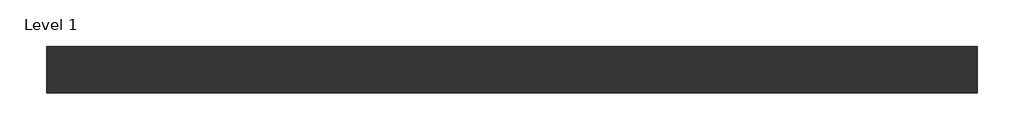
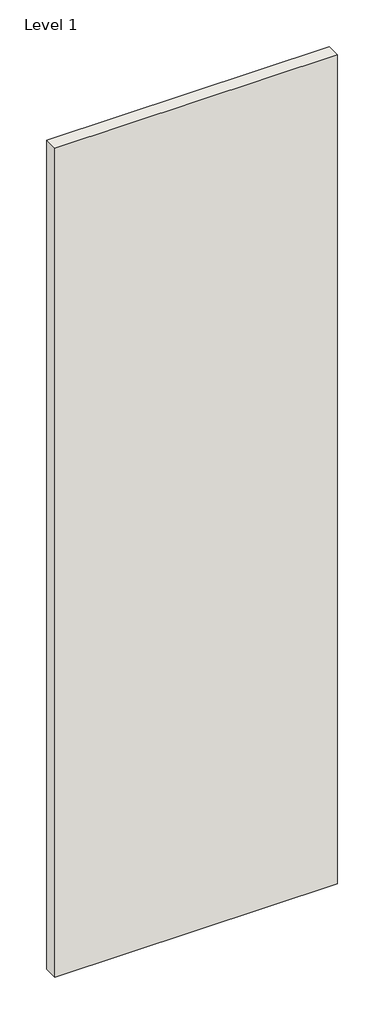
# One storey: 1 wall.
"""IFC4 building model written with IfcOpenShell, lengths in millimetres."""

from ifc_helpers import new_model, si_unit, origin, origin_with_axes, place, context, project, spatial, polyline, outline, extrude, element, save

model = new_model("IFC4")

# Units and contexts
model_context = context("Model", 3, world=origin())
ifc_project = project(units=[si_unit("LENGTHUNIT", "METRE", prefix="MILLI")], contexts=[model_context])

# Site, building, storey
site = spatial("IfcSite", under=ifc_project)
building = spatial("IfcBuilding", under=site)
storey = spatial("IfcBuildingStorey", under=building, Name="Level 1", Elevation=0.0)

# Wall
placement = place(None, origin())
element("IfcWall", 1, ObjectType="Trasdosado Simple – Placo® High Stil 95/70 a 450 mm con LM Ruller", at=placement, inside=storey, context=model_context, shape_type="SweptSolid", body=[
    extrude(outline(polyline([(-27899.638602, -97413.3787284), (-29784.638602, -97413.3787284), (-29784.638602, -97318.3787284), (-27899.638602, -97318.3787284), (-27899.638602, -97413.3787284)])), origin_with_axes(), (0.0, 0.0, 1.0), 5850.0),
])

save(model, "model.ifc")
